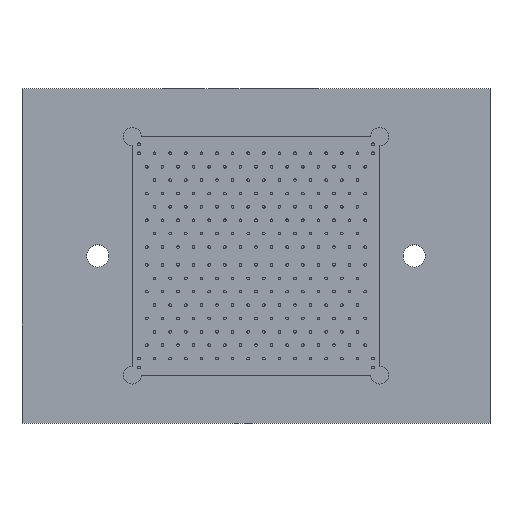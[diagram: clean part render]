
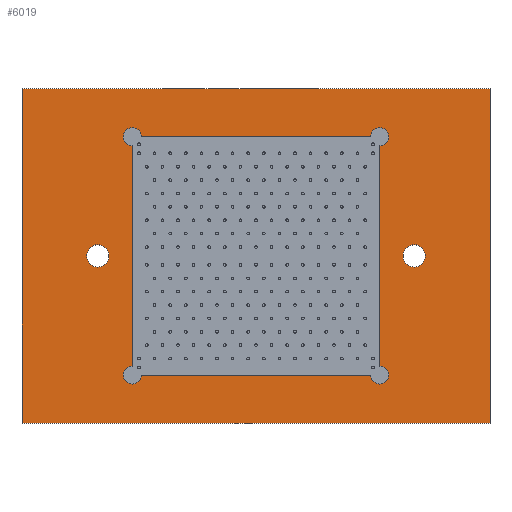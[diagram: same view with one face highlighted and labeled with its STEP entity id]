
A CAD part, top view. The second image highlights one B-rep face of the part: STEP entity #6019.
In plain terms, the highlighted planar face has unit normal (0, 0, 1).
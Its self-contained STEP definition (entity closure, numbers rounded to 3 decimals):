
#61=LINE('',#9848,#185);
#67=LINE('',#9861,#191);
#69=LINE('',#9866,#193);
#73=LINE('',#9875,#197);
#87=LINE('',#9974,#211);
#108=LINE('',#10205,#232);
#109=LINE('',#10207,#233);
#110=LINE('',#10209,#234);
#185=VECTOR('',#7658,1000.);
#191=VECTOR('',#7666,1000.);
#193=VECTOR('',#7670,1000.);
#197=VECTOR('',#7676,1000.);
#211=VECTOR('',#7692,1000.);
#232=VECTOR('',#7725,1000.);
#233=VECTOR('',#7726,1000.);
#234=VECTOR('',#7727,1000.);
#637=ORIENTED_EDGE('',*,*,#1871,.F.);
#638=ORIENTED_EDGE('',*,*,#1931,.F.);
#639=ORIENTED_EDGE('',*,*,#1877,.F.);
#640=ORIENTED_EDGE('',*,*,#1932,.F.);
#641=ORIENTED_EDGE('',*,*,#1883,.T.);
#642=ORIENTED_EDGE('',*,*,#1933,.F.);
#643=ORIENTED_EDGE('',*,*,#1879,.F.);
#644=ORIENTED_EDGE('',*,*,#1934,.F.);
#645=ORIENTED_EDGE('',*,*,#1935,.F.);
#646=ORIENTED_EDGE('',*,*,#1901,.F.);
#647=ORIENTED_EDGE('',*,*,#1936,.T.);
#648=ORIENTED_EDGE('',*,*,#1937,.T.);
#649=ORIENTED_EDGE('',*,*,#1938,.T.);
#650=ORIENTED_EDGE('',*,*,#1939,.F.);
#1871=EDGE_CURVE('',#2520,#2522,#61,.T.);
#1877=EDGE_CURVE('',#2527,#2525,#67,.T.);
#1879=EDGE_CURVE('',#2528,#2530,#69,.T.);
#1883=EDGE_CURVE('',#2534,#2532,#73,.T.);
#1901=EDGE_CURVE('',#2551,#2552,#87,.T.);
#1931=EDGE_CURVE('',#2525,#2520,#3120,.T.);
#1932=EDGE_CURVE('',#2534,#2527,#3121,.T.);
#1933=EDGE_CURVE('',#2530,#2532,#3122,.T.);
#1934=EDGE_CURVE('',#2522,#2528,#3123,.T.);
#1935=EDGE_CURVE('',#2581,#2581,#3124,.T.);
#1936=EDGE_CURVE('',#2551,#2582,#108,.T.);
#1937=EDGE_CURVE('',#2582,#2583,#109,.T.);
#1938=EDGE_CURVE('',#2583,#2552,#110,.T.);
#1939=EDGE_CURVE('',#2584,#2584,#3125,.T.);
#2520=VERTEX_POINT('',#9846);
#2522=VERTEX_POINT('',#9849);
#2525=VERTEX_POINT('',#9856);
#2527=VERTEX_POINT('',#9860);
#2528=VERTEX_POINT('',#9864);
#2530=VERTEX_POINT('',#9867);
#2532=VERTEX_POINT('',#9873);
#2534=VERTEX_POINT('',#9876);
#2551=VERTEX_POINT('',#9973);
#2552=VERTEX_POINT('',#9975);
#2581=VERTEX_POINT('',#10204);
#2582=VERTEX_POINT('',#10206);
#2583=VERTEX_POINT('',#10208);
#2584=VERTEX_POINT('',#10211);
#3120=CIRCLE('',#6597,2.);
#3121=CIRCLE('',#6598,2.);
#3122=CIRCLE('',#6599,2.);
#3123=CIRCLE('',#6600,2.);
#3124=CIRCLE('',#6601,2.5);
#3125=CIRCLE('',#6602,2.5);
#3635=EDGE_LOOP('',(#637,#638,#639,#640,#641,#642,#643,#644));
#3636=EDGE_LOOP('',(#645));
#3637=EDGE_LOOP('',(#646,#647,#648,#649));
#3638=EDGE_LOOP('',(#650));
#4689=FACE_BOUND('',#3635,.T.);
#4690=FACE_BOUND('',#3636,.T.);
#4691=FACE_BOUND('',#3637,.T.);
#4692=FACE_BOUND('',#3638,.T.);
#5727=PLANE('',#6596);
#6019=ADVANCED_FACE('',(#4689,#4690,#4691,#4692),#5727,.T.);
#6596=AXIS2_PLACEMENT_3D('',#10198,#7713,#7714);
#6597=AXIS2_PLACEMENT_3D('',#10199,#7715,#7716);
#6598=AXIS2_PLACEMENT_3D('',#10200,#7717,#7718);
#6599=AXIS2_PLACEMENT_3D('',#10201,#7719,#7720);
#6600=AXIS2_PLACEMENT_3D('',#10202,#7721,#7722);
#6601=AXIS2_PLACEMENT_3D('',#10203,#7723,#7724);
#6602=AXIS2_PLACEMENT_3D('',#10210,#7728,#7729);
#7658=DIRECTION('',(1.,0.,0.));
#7666=DIRECTION('',(0.,-1.,0.));
#7670=DIRECTION('',(0.,1.,0.));
#7676=DIRECTION('',(1.,0.,0.));
#7692=DIRECTION('',(1.,0.,0.));
#7713=DIRECTION('',(0.,0.,1.));
#7714=DIRECTION('',(1.,0.,0.));
#7715=DIRECTION('',(0.,0.,1.));
#7716=DIRECTION('',(1.,0.,0.));
#7717=DIRECTION('',(0.,0.,1.));
#7718=DIRECTION('',(1.,0.,0.));
#7719=DIRECTION('',(0.,0.,1.));
#7720=DIRECTION('',(1.,0.,0.));
#7721=DIRECTION('',(0.,0.,1.));
#7722=DIRECTION('',(1.,0.,0.));
#7723=DIRECTION('',(0.,0.,1.));
#7724=DIRECTION('',(1.,0.,0.));
#7725=DIRECTION('',(0.,-1.,0.));
#7726=DIRECTION('',(1.,0.,0.));
#7727=DIRECTION('',(0.,1.,0.));
#7728=DIRECTION('',(0.,0.,1.));
#7729=DIRECTION('',(1.,0.,0.));
#9846=CARTESIAN_POINT('',(-25.75,-26.75,15.));
#9848=CARTESIAN_POINT('',(-27.75,-26.75,15.));
#9849=CARTESIAN_POINT('',(25.75,-26.75,15.));
#9856=CARTESIAN_POINT('',(-27.75,-24.75,15.));
#9860=CARTESIAN_POINT('',(-27.75,24.75,15.));
#9861=CARTESIAN_POINT('',(-27.75,26.75,15.));
#9864=CARTESIAN_POINT('',(27.75,-24.75,15.));
#9866=CARTESIAN_POINT('',(27.75,-26.75,15.));
#9867=CARTESIAN_POINT('',(27.75,24.75,15.));
#9873=CARTESIAN_POINT('',(25.75,26.75,15.));
#9875=CARTESIAN_POINT('',(-27.75,26.75,15.));
#9876=CARTESIAN_POINT('',(-25.75,26.75,15.));
#9973=CARTESIAN_POINT('',(-52.5,37.5,15.));
#9974=CARTESIAN_POINT('',(-52.5,37.5,15.));
#9975=CARTESIAN_POINT('',(52.5,37.5,15.));
#10198=CARTESIAN_POINT('',(-52.5,-37.5,15.));
#10199=CARTESIAN_POINT('',(-27.75,-26.75,15.));
#10200=CARTESIAN_POINT('',(-27.75,26.75,15.));
#10201=CARTESIAN_POINT('',(27.75,26.75,15.));
#10202=CARTESIAN_POINT('',(27.75,-26.75,15.));
#10203=CARTESIAN_POINT('',(-35.5,0.,15.));
#10204=CARTESIAN_POINT('',(-33.,0.,15.));
#10205=CARTESIAN_POINT('',(-52.5,37.5,15.));
#10206=CARTESIAN_POINT('',(-52.5,-37.5,15.));
#10207=CARTESIAN_POINT('',(-52.5,-37.5,15.));
#10208=CARTESIAN_POINT('',(52.5,-37.5,15.));
#10209=CARTESIAN_POINT('',(52.5,-37.5,15.));
#10210=CARTESIAN_POINT('',(35.5,0.,15.));
#10211=CARTESIAN_POINT('',(38.,0.,15.));
